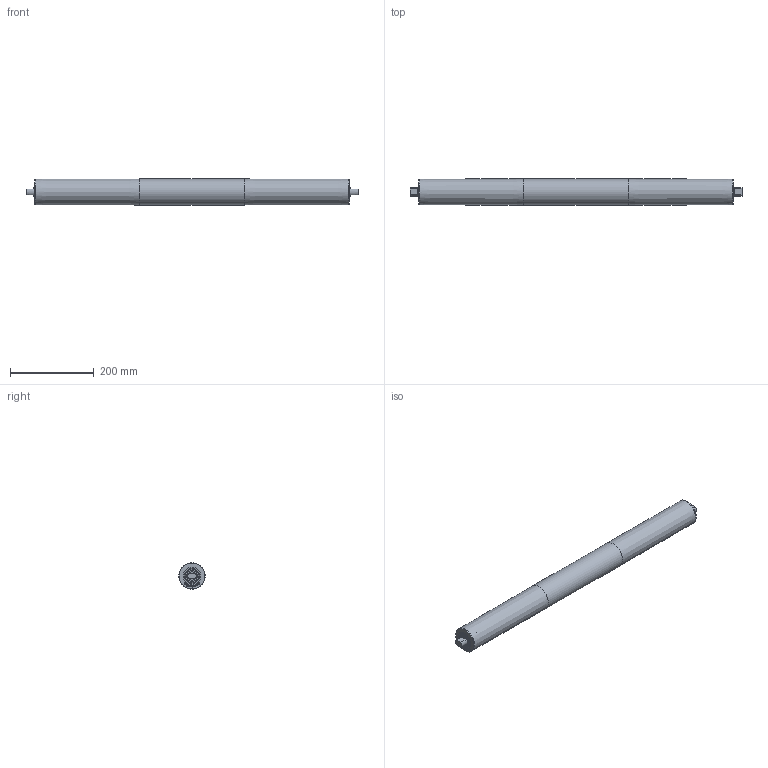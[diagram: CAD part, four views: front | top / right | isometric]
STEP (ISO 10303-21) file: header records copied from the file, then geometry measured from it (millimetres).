
FILE_DESCRIPTION(/* description */ (''),/* implementation_level */ '2;1');
FILE_NAME(/* name */ 'C:\WF_Ellegaard\Designs\00 standart komponenter\Tromlemotor\Scandrive S\Ø60\Scandrive S Ø60 RL750.stp',/* time_stamp */ '2017-04-19T18:03:50+02:00',/* author */ ('guh'),/* organization */ (''),/* preprocessor_version */ 'ST-DEVELOPER v15.6',/* originating_system */ 'Autodesk Inventor 2015',/* authorisation */ '');
FILE_SCHEMA (('AUTOMOTIVE_DESIGN { 1 0 10303 214 3 1 1 }'));
Length unit declared in the file: millimetre
Products named in the file (1): Scandrive S Ø60 RL750
Bounding box: 791 x 62.5 x 62.5 mm (x, y, z)
Volume: 481950.5 mm3; surface area: 290680.8 mm2
Topology: 1 solids, 2 shells, 454 faces, 1186 edges, 790 vertices
Faces by surface type: plane 236, bspline 196, cylinder 16, cone 4, torus 2
Full cylindrical faces by diameter (mm): 20 x2, 26 x2, 26.02 x2, 41.98 x2, 42 x2, 57 x1, 61.492 x2, 61.5 x2, 62.5 x1
Entity records: 14806 total; most frequent: CARTESIAN_POINT 4953, ORIENTED_EDGE 2324, DIRECTION 1336, EDGE_CURVE 1162, VERTEX_POINT 788, LINE 722, VECTOR 722, EDGE_LOOP 530
